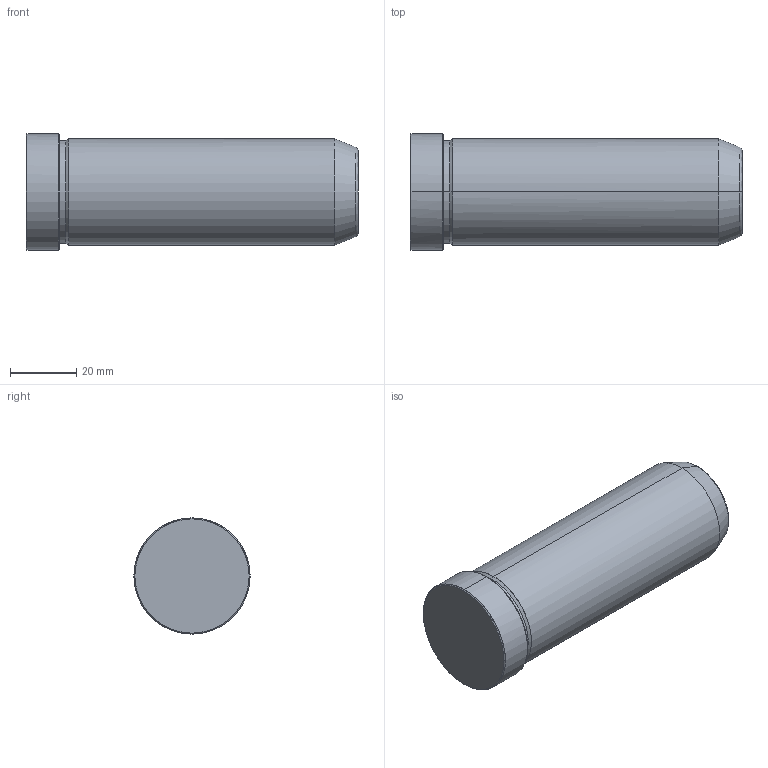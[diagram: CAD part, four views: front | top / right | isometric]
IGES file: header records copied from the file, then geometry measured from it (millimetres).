
Start section: START RECORD GO HERE.
Global section: file name: 549-32X100.igs; native system: DASSAULT SYSTEMES CATIA V5 R20 - www.3ds.com; preprocessor: CATIA Version 5 Release 20 ; author: Utente; organization: NB04-ASUS; date: 20211218.090939; units: millimetre
Bounding box: 100 x 35 x 35 mm (x, y, z)
Surface area: 11803.1 mm2 (no closed solid volume)
Topology: 0 solids, 0 shells, 19 faces, 112 edges, 112 vertices
Faces by surface type: revolution 16, plane 3
